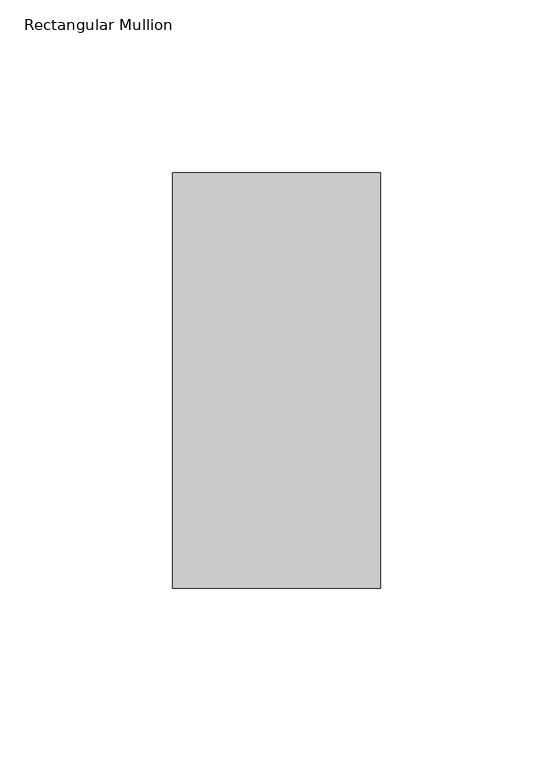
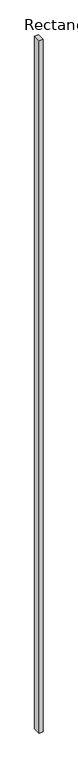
"""IFC4 building model written with IfcOpenShell, lengths in millimetres: member geometry, Rectangular Mullion : Terça."""

from ifc_helpers import new_model, si_unit, frame, origin, place, context, project, spatial, polyline, outline, extrude, source, transform, mapped, element, save


def rectangular_mullion_a7916b99(model_context):
    return source(origin(), model_context, "Body", "SweptSolid", [
        extrude(outline(polyline([(-60.0, -120.0), (-60.0, 0.0), (0.0, 0.0), (0.0, -120.0), (-60.0, -120.0)])), frame((0.0, 0.0, -11499.877058), z_axis=(0.0, 0.0, 1.0), x_axis=(1.0, 0.0, 0.0)), (0.0, 0.0, 1.0), 11499.877058),
    ])


if __name__ == "__main__":
    model = new_model("IFC4")
    model_context = context("Model", 3, world=origin())
    ifc_project = project(units=[si_unit("LENGTHUNIT", "METRE", prefix="MILLI")], contexts=[model_context])
    site = spatial("IfcSite", under=ifc_project)
    building = spatial("IfcBuilding", under=site)
    placement = place(None, origin())
    rectangular_mullion_shape = rectangular_mullion_a7916b99(model_context)
    element("IfcMember", 1, ObjectType="Rectangular Mullion : Terça", at=placement, inside=building, context=model_context, shape_type="MappedRepresentation", body=[
        mapped(rectangular_mullion_shape, transform((0.0, 0.0, 0.0), x_axis=(1.0, 0.0, 0.0), y_axis=(0.0, 1.0, 0.0), z_axis=(0.0, 0.0, 1.0))),
    ])
    save(model, "model.ifc")
